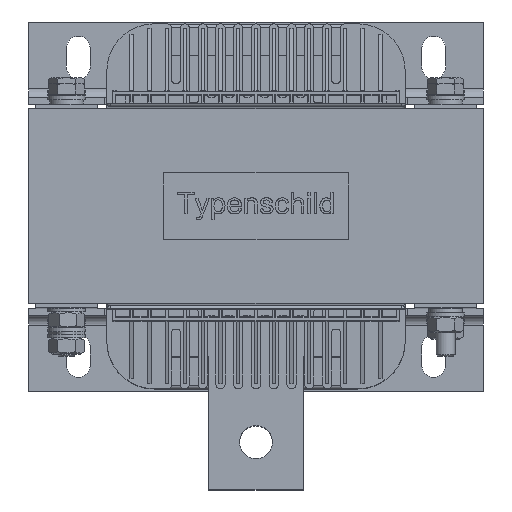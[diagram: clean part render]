
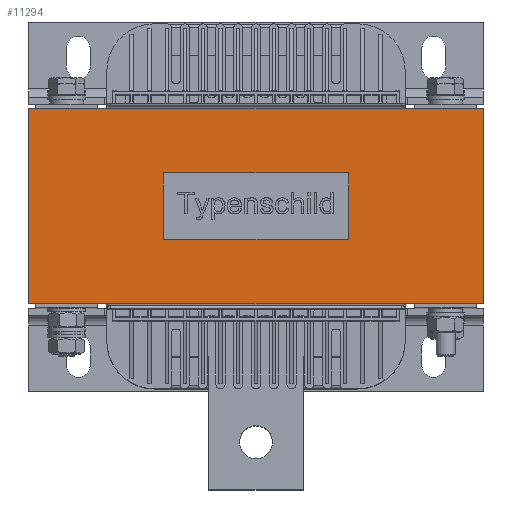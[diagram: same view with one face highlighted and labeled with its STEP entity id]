
A CAD part, top view. The second image highlights one B-rep face of the part: STEP entity #11294.
In plain terms, the highlighted planar face has unit normal (0, 0, 1).
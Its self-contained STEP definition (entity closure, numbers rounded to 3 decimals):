
#11154=CARTESIAN_POINT('',(-96.,41.,81.));
#11155=VERTEX_POINT('',#11154);
#11162=CARTESIAN_POINT('',(96.,41.,81.));
#11163=VERTEX_POINT('',#11162);
#11164=CARTESIAN_POINT('',(96.,41.,81.));
#11165=DIRECTION('',(-1.0,0.0,0.0));
#11166=VECTOR('',#11165,192.);
#11167=LINE('',#11164,#11166);
#11168=EDGE_CURVE('',#11163,#11155,#11167,.T.);
#11230=CARTESIAN_POINT('',(-96.,0.0,81.));
#11231=DIRECTION('',(0.0,0.0,1.0));
#11232=DIRECTION('',(-1.0,0.0,0.0));
#11233=AXIS2_PLACEMENT_3D('',#11230,#11231,#11232);
#11234=PLANE('',#11233);
#11235=CARTESIAN_POINT('',(-96.,-41.,81.));
#11236=VERTEX_POINT('',#11235);
#11237=CARTESIAN_POINT('',(96.,-41.,81.));
#11238=VERTEX_POINT('',#11237);
#11239=CARTESIAN_POINT('',(-96.,-41.,81.));
#11240=DIRECTION('',(1.0,0.0,0.0));
#11241=VECTOR('',#11240,192.);
#11242=LINE('',#11239,#11241);
#11243=EDGE_CURVE('',#11236,#11238,#11242,.T.);
#11244=ORIENTED_EDGE('',*,*,#11243,.T.);
#11245=CARTESIAN_POINT('',(96.,-41.,81.));
#11246=DIRECTION('',(0.0,1.0,0.0));
#11247=VECTOR('',#11246,82.);
#11248=LINE('',#11245,#11247);
#11249=EDGE_CURVE('',#11238,#11163,#11248,.T.);
#11250=ORIENTED_EDGE('',*,*,#11249,.T.);
#11251=ORIENTED_EDGE('',*,*,#11168,.T.);
#11252=CARTESIAN_POINT('',(-96.,41.,81.));
#11253=DIRECTION('',(0.0,-1.0,0.0));
#11254=VECTOR('',#11253,82.);
#11255=LINE('',#11252,#11254);
#11256=EDGE_CURVE('',#11155,#11236,#11255,.T.);
#11257=ORIENTED_EDGE('',*,*,#11256,.T.);
#11258=EDGE_LOOP('',(#11244,#11250,#11251,#11257));
#11259=FACE_OUTER_BOUND('',#11258,.T.);
#11260=CARTESIAN_POINT('',(-39.,14.,81.));
#11261=VERTEX_POINT('',#11260);
#11262=CARTESIAN_POINT('',(-39.,-14.,81.));
#11263=VERTEX_POINT('',#11262);
#11264=CARTESIAN_POINT('',(-39.,14.,81.));
#11265=DIRECTION('',(0.0,-1.0,0.0));
#11266=VECTOR('',#11265,28.);
#11267=LINE('',#11264,#11266);
#11268=EDGE_CURVE('',#11261,#11263,#11267,.T.);
#11269=ORIENTED_EDGE('',*,*,#11268,.F.);
#11270=CARTESIAN_POINT('',(39.,14.,81.));
#11271=VERTEX_POINT('',#11270);
#11272=CARTESIAN_POINT('',(39.,14.,81.));
#11273=DIRECTION('',(-1.0,0.0,0.0));
#11274=VECTOR('',#11273,78.0);
#11275=LINE('',#11272,#11274);
#11276=EDGE_CURVE('',#11271,#11261,#11275,.T.);
#11277=ORIENTED_EDGE('',*,*,#11276,.F.);
#11278=CARTESIAN_POINT('',(39.,-14.,81.));
#11279=VERTEX_POINT('',#11278);
#11280=CARTESIAN_POINT('',(39.,-14.,81.));
#11281=DIRECTION('',(0.0,1.0,0.0));
#11282=VECTOR('',#11281,28.);
#11283=LINE('',#11280,#11282);
#11284=EDGE_CURVE('',#11279,#11271,#11283,.T.);
#11285=ORIENTED_EDGE('',*,*,#11284,.F.);
#11286=CARTESIAN_POINT('',(-39.,-14.,81.));
#11287=DIRECTION('',(1.0,0.0,0.0));
#11288=VECTOR('',#11287,78.);
#11289=LINE('',#11286,#11288);
#11290=EDGE_CURVE('',#11263,#11279,#11289,.T.);
#11291=ORIENTED_EDGE('',*,*,#11290,.F.);
#11292=EDGE_LOOP('',(#11269,#11277,#11285,#11291));
#11293=FACE_BOUND('',#11292,.T.);
#11294=ADVANCED_FACE('',(#11259,#11293),#11234,.T.);
